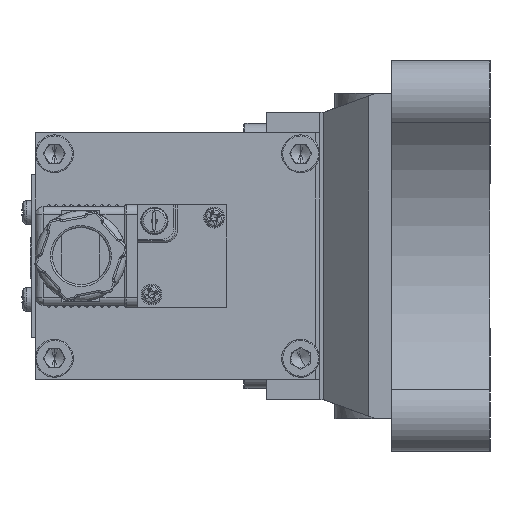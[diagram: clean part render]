
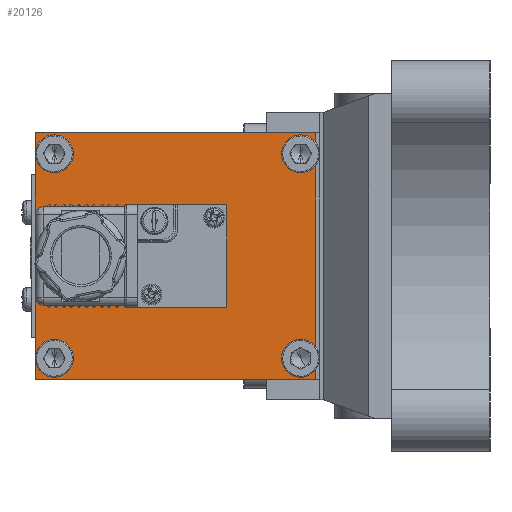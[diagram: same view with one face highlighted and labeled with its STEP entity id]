
A CAD part, left-side view. The second image highlights one B-rep face of the part: STEP entity #20126.
In plain terms, the highlighted planar face has unit normal (-1, 0, 0) as drawn and (1, 0, 0) by its records, which use the part's own axes.
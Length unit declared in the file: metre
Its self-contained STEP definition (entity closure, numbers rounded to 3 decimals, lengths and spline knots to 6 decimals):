
#417 = CARTESIAN_POINT ( 'NONE',  ( 0.08, 0.002, -0.0325 ) ) ;
#547 = AXIS2_PLACEMENT_3D ( 'NONE', #3014, #19447, #5397 ) ;
#648 = CARTESIAN_POINT ( 'NONE',  ( 0.08, 0.071, -0.027 ) ) ;
#1794 = ORIENTED_EDGE ( 'NONE', *, *, #5213, .F. ) ;
#1828 = CARTESIAN_POINT ( 'NONE',  ( 0.08, 0.002, 0.0325 ) ) ;
#2171 = DIRECTION ( 'NONE',  ( 0., 0., 1. ) ) ;
#2246 = CARTESIAN_POINT ( 'NONE',  ( 0.08, 0.006, 0.027 ) ) ;
#2406 = CARTESIAN_POINT ( 'NONE',  ( 0.08, 0.002, -0.0325 ) ) ;
#2495 = EDGE_CURVE ( 'NONE', #3604, #25719, #19176, .T. ) ;
#2550 = EDGE_CURVE ( 'NONE', #24026, #18919, #5235, .T. ) ;
#2763 = PLANE ( 'NONE',  #4324 ) ;
#2776 = VERTEX_POINT ( 'NONE', #24105 ) ;
#2785 = VERTEX_POINT ( 'NONE', #14720 ) ;
#2992 = DIRECTION ( 'NONE',  ( 0., 0., -1. ) ) ;
#3014 = CARTESIAN_POINT ( 'NONE',  ( 0.08, 0.006, 0.027 ) ) ;
#3236 = ORIENTED_EDGE ( 'NONE', *, *, #17282, .F. ) ;
#3604 = VERTEX_POINT ( 'NONE', #23749 ) ;
#3742 = LINE ( 'NONE', #22841, #9281 ) ;
#3853 = CARTESIAN_POINT ( 'NONE',  ( 0.08, 0.006, -0.027 ) ) ;
#4016 = AXIS2_PLACEMENT_3D ( 'NONE', #18725, #4663, #21110 ) ;
#4209 = VECTOR ( 'NONE', #5540, 1. ) ;
#4324 = AXIS2_PLACEMENT_3D ( 'NONE', #417, #5155, #21594 ) ;
#4479 = FACE_BOUND ( 'NONE', #4555, .T. ) ;
#4555 = EDGE_LOOP ( 'NONE', ( #1794, #18766 ) ) ;
#4626 = DIRECTION ( 'NONE',  ( 0., 0., -1. ) ) ;
#4663 = DIRECTION ( 'NONE',  ( 1., 0., 0. ) ) ;
#5155 = DIRECTION ( 'NONE',  ( -1., 0., 0. ) ) ;
#5211 = ORIENTED_EDGE ( 'NONE', *, *, #29558, .F. ) ;
#5213 = EDGE_CURVE ( 'NONE', #26288, #2776, #19800, .T. ) ;
#5235 = LINE ( 'NONE', #16262, #6713 ) ;
#5397 = DIRECTION ( 'NONE',  ( 0., 0., -1. ) ) ;
#5540 = DIRECTION ( 'NONE',  ( 0., -1., 0. ) ) ;
#5593 = CARTESIAN_POINT ( 'NONE',  ( 0.08, 0.071, -0.027 ) ) ;
#5938 = AXIS2_PLACEMENT_3D ( 'NONE', #2246, #18688, #4626 ) ;
#6137 = EDGE_LOOP ( 'NONE', ( #17886, #13465 ) ) ;
#6237 = DIRECTION ( 'NONE',  ( 0., 0., -1. ) ) ;
#6713 = VECTOR ( 'NONE', #2171, 1. ) ;
#6830 = CIRCLE ( 'NONE', #24739, 0.003 ) ;
#6986 = CARTESIAN_POINT ( 'NONE',  ( 0.08, 0.006, -0.024 ) ) ;
#7918 = CARTESIAN_POINT ( 'NONE',  ( 0.08, 0.039, -0.0325 ) ) ;
#7960 = DIRECTION ( 'NONE',  ( 0., 0., -1. ) ) ;
#8497 = CARTESIAN_POINT ( 'NONE',  ( 0.08, 0.071, 0.03 ) ) ;
#8847 = EDGE_CURVE ( 'NONE', #14443, #12192, #6830, .T. ) ;
#9019 = VERTEX_POINT ( 'NONE', #8497 ) ;
#9281 = VECTOR ( 'NONE', #13486, 1. ) ;
#9352 = ORIENTED_EDGE ( 'NONE', *, *, #2495, .F. ) ;
#9797 = VERTEX_POINT ( 'NONE', #6986 ) ;
#9898 = EDGE_CURVE ( 'NONE', #25719, #24026, #29252, .T. ) ;
#10341 = ORIENTED_EDGE ( 'NONE', *, *, #2550, .F. ) ;
#10403 = EDGE_CURVE ( 'NONE', #18919, #3604, #3742, .T. ) ;
#10498 = EDGE_LOOP ( 'NONE', ( #3236, #29315 ) ) ;
#11023 = EDGE_CURVE ( 'NONE', #2776, #26288, #28757, .T. ) ;
#11779 = DIRECTION ( 'NONE',  ( 1., 0., 0. ) ) ;
#12192 = VERTEX_POINT ( 'NONE', #16173 ) ;
#12295 = EDGE_LOOP ( 'NONE', ( #5211, #12435 ) ) ;
#12435 = ORIENTED_EDGE ( 'NONE', *, *, #26986, .F. ) ;
#12442 = AXIS2_PLACEMENT_3D ( 'NONE', #3853, #20290, #6237 ) ;
#12565 = ORIENTED_EDGE ( 'NONE', *, *, #9898, .F. ) ;
#12908 = CIRCLE ( 'NONE', #19773, 0.003 ) ;
#12938 = VECTOR ( 'NONE', #25502, 1. ) ;
#13465 = ORIENTED_EDGE ( 'NONE', *, *, #8847, .F. ) ;
#13486 = DIRECTION ( 'NONE',  ( 0., 1., 0. ) ) ;
#13489 = CARTESIAN_POINT ( 'NONE',  ( 0.08, 0.071, 0.027 ) ) ;
#13755 = CIRCLE ( 'NONE', #26107, 0.003 ) ;
#14215 = EDGE_CURVE ( 'NONE', #9019, #2785, #29421, .T. ) ;
#14443 = VERTEX_POINT ( 'NONE', #17332 ) ;
#14720 = CARTESIAN_POINT ( 'NONE',  ( 0.08, 0.071, 0.024 ) ) ;
#15174 = AXIS2_PLACEMENT_3D ( 'NONE', #13489, #29989, #15857 ) ;
#15604 = EDGE_LOOP ( 'NONE', ( #9352, #21739, #10341, #12565 ) ) ;
#15857 = DIRECTION ( 'NONE',  ( 0., 0., -1. ) ) ;
#16173 = CARTESIAN_POINT ( 'NONE',  ( 0.08, 0.071, -0.03 ) ) ;
#16262 = CARTESIAN_POINT ( 'NONE',  ( 0.08, 0.002, 0. ) ) ;
#16911 = CARTESIAN_POINT ( 'NONE',  ( 0.08, 0.006, -0.03 ) ) ;
#17076 = DIRECTION ( 'NONE',  ( 1., 0., 0. ) ) ;
#17282 = EDGE_CURVE ( 'NONE', #2785, #9019, #26367, .T. ) ;
#17332 = CARTESIAN_POINT ( 'NONE',  ( 0.08, 0.071, -0.024 ) ) ;
#17701 = FACE_BOUND ( 'NONE', #6137, .T. ) ;
#17775 = FACE_BOUND ( 'NONE', #12295, .T. ) ;
#17886 = ORIENTED_EDGE ( 'NONE', *, *, #27373, .F. ) ;
#18688 = DIRECTION ( 'NONE',  ( 1., 0., 0. ) ) ;
#18725 = CARTESIAN_POINT ( 'NONE',  ( 0.08, 0.071, 0.027 ) ) ;
#18766 = ORIENTED_EDGE ( 'NONE', *, *, #11023, .F. ) ;
#18919 = VERTEX_POINT ( 'NONE', #1828 ) ;
#19176 = LINE ( 'NONE', #20058, #12938 ) ;
#19447 = DIRECTION ( 'NONE',  ( 1., 0., 0. ) ) ;
#19773 = AXIS2_PLACEMENT_3D ( 'NONE', #25944, #11779, #28298 ) ;
#19800 = CIRCLE ( 'NONE', #5938, 0.003 ) ;
#20058 = CARTESIAN_POINT ( 'NONE',  ( 0.08, 0.076, 0. ) ) ;
#20126 = ADVANCED_FACE ( 'NONE', ( #28799, #17701, #4479, #17775, #30340 ), #2763, .F. ) ;
#20290 = DIRECTION ( 'NONE',  ( 1., 0., 0. ) ) ;
#20709 = VERTEX_POINT ( 'NONE', #16911 ) ;
#21110 = DIRECTION ( 'NONE',  ( 0., 0., -1. ) ) ;
#21594 = DIRECTION ( 'NONE',  ( 0., 0., 1. ) ) ;
#21739 = ORIENTED_EDGE ( 'NONE', *, *, #10403, .F. ) ;
#22027 = DIRECTION ( 'NONE',  ( 1., 0., 0. ) ) ;
#22841 = CARTESIAN_POINT ( 'NONE',  ( 0.08, 0.039, 0.0325 ) ) ;
#23749 = CARTESIAN_POINT ( 'NONE',  ( 0.08, 0.076, 0.0325 ) ) ;
#23804 = CARTESIAN_POINT ( 'NONE',  ( 0.08, 0.076, -0.0325 ) ) ;
#24026 = VERTEX_POINT ( 'NONE', #2406 ) ;
#24105 = CARTESIAN_POINT ( 'NONE',  ( 0.08, 0.006, 0.03 ) ) ;
#24522 = CARTESIAN_POINT ( 'NONE',  ( 0.08, 0.006, 0.024 ) ) ;
#24739 = AXIS2_PLACEMENT_3D ( 'NONE', #5593, #22027, #7960 ) ;
#25502 = DIRECTION ( 'NONE',  ( 0., 0., -1. ) ) ;
#25551 = CIRCLE ( 'NONE', #12442, 0.003 ) ;
#25719 = VERTEX_POINT ( 'NONE', #23804 ) ;
#25944 = CARTESIAN_POINT ( 'NONE',  ( 0.08, 0.006, -0.027 ) ) ;
#26107 = AXIS2_PLACEMENT_3D ( 'NONE', #648, #17076, #2992 ) ;
#26288 = VERTEX_POINT ( 'NONE', #24522 ) ;
#26367 = CIRCLE ( 'NONE', #4016, 0.003 ) ;
#26986 = EDGE_CURVE ( 'NONE', #9797, #20709, #25551, .T. ) ;
#27373 = EDGE_CURVE ( 'NONE', #12192, #14443, #13755, .T. ) ;
#28298 = DIRECTION ( 'NONE',  ( 0., 0., -1. ) ) ;
#28757 = CIRCLE ( 'NONE', #547, 0.003 ) ;
#28799 = FACE_BOUND ( 'NONE', #10498, .T. ) ;
#29252 = LINE ( 'NONE', #7918, #4209 ) ;
#29315 = ORIENTED_EDGE ( 'NONE', *, *, #14215, .F. ) ;
#29421 = CIRCLE ( 'NONE', #15174, 0.003 ) ;
#29558 = EDGE_CURVE ( 'NONE', #20709, #9797, #12908, .T. ) ;
#29989 = DIRECTION ( 'NONE',  ( 1., 0., 0. ) ) ;
#30340 = FACE_OUTER_BOUND ( 'NONE', #15604, .T. ) ;
